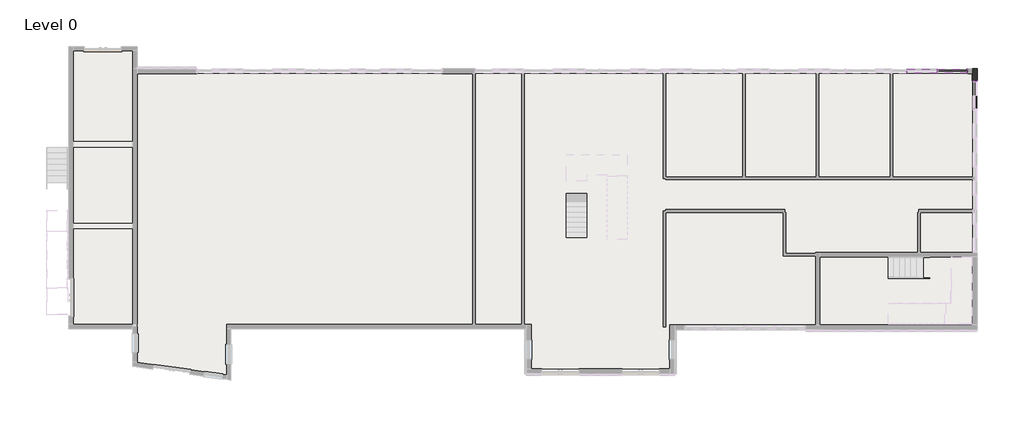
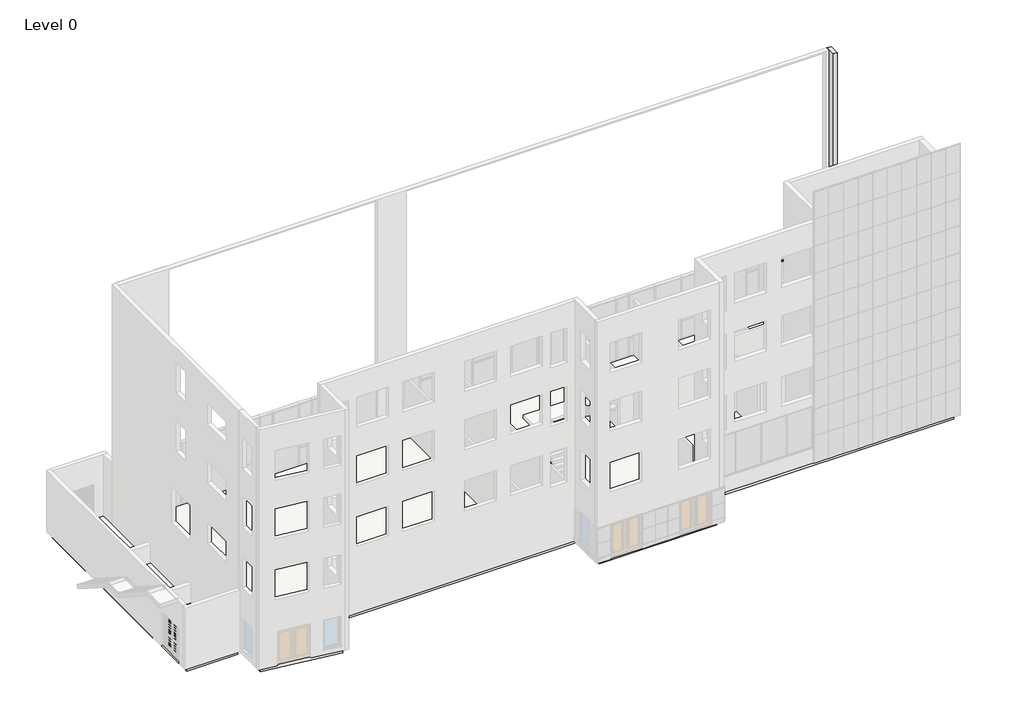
# One storey, part 8 of 10: 9 members, 2 slabs, 1 plate, 1 wall.
"""IFC4 building model written with IfcOpenShell, lengths in millimetres."""

import ifcopenshell
import ifcopenshell.guid

model = None  # the IFC model being written
_history = None  # IfcOwnerHistory: only IFC2X3 demands one
_inside = {}  # id of a spatial element -> (the spatial element, [elements in it])
_under = {}  # id of a project, library or spatial element -> (it, [spatial elements below it])
_declared = {}  # id of a project -> (the project, [libraries it declares])
_typed = {}  # id of a type object -> (the type object, [elements of that type])
_made_of = {}  # id of a material, layer set ... -> (it, [elements and type objects made of it])


def new_model(schema):
    """Start an empty IFC model of exactly this schema.

    Asked for "IFC4X3", IfcOpenShell would pick the latest addendum, in which some entities
    have other attributes; the version numbers below select the first issue.
    IFC2X3 requires an IfcOwnerHistory on every rooted entity: one is made here for all.
    """
    global model, _history
    if schema == "IFC4X3":
        model = ifcopenshell.file(schema_version=(4, 3, 0, 0))
    else:
        model = ifcopenshell.file(schema=schema)
    _inside.clear()
    _under.clear()
    _declared.clear()
    _typed.clear()
    _made_of.clear()
    _history = None
    if model.schema == "IFC2X3":
        org = make("IfcOrganization", Name="unknown")
        user = make(
            "IfcPersonAndOrganization",
            ThePerson=make("IfcPerson", FamilyName="unknown"),
            TheOrganization=org,
        )
        app = make(
            "IfcApplication",
            ApplicationDeveloper=org,
            Version="unknown",
            ApplicationFullName="unknown",
            ApplicationIdentifier="unknown",
        )
        _history = make(
            "IfcOwnerHistory",
            OwningUser=user,
            OwningApplication=app,
            ChangeAction="ADDED",
            CreationDate=0,
        )
    return model


def make(cls, **values):
    """One entity of the class cls with the attributes given. An attribute that is None is left unset."""
    return model.create_entity(
        cls, **{name: value for name, value in values.items() if value is not None}
    )


def rooted(cls, **values):
    """An entity with a GlobalId (a new one), such as an element, a storey or a relation."""
    return make(cls, GlobalId=ifcopenshell.guid.new(), OwnerHistory=_history, **values)


def si_unit(unit_type, name, prefix=None):
    """IfcSIUnit, for example si_unit("LENGTHUNIT", "METRE", prefix="MILLI")."""
    return make("IfcSIUnit", UnitType=unit_type, Prefix=prefix, Name=name)


def assignment(units):
    """IfcUnitAssignment: the units of a project."""
    return None if units is None else make("IfcUnitAssignment", Units=units)


def point(xyz):
    """IfcCartesianPoint."""
    return None if xyz is None else make("IfcCartesianPoint", Coordinates=xyz)


def direction(xyz):
    """IfcDirection."""
    return None if xyz is None else make("IfcDirection", DirectionRatios=xyz)


def frame(location, z_axis=None, x_axis=None):
    """IfcAxis2Placement3D, a coordinate frame: its origin and axes. An axis left out is left unset."""
    return make(
        "IfcAxis2Placement3D",
        Location=point(location),
        Axis=direction(z_axis),
        RefDirection=direction(x_axis),
    )


def origin():
    """The frame at (0, 0, 0) with its axes left unset."""
    return frame((0.0, 0.0, 0.0))


def place(relative_to, where):
    """IfcLocalPlacement: puts the frame where relative to a parent placement (None: the world)."""
    return make(
        "IfcLocalPlacement", PlacementRelTo=relative_to, RelativePlacement=where
    )


def context(
    kind, dimensions, precision=None, world=None, true_north=None, identifier=None
):
    """IfcGeometricRepresentationContext, for example the 3D "Model" context."""
    return make(
        "IfcGeometricRepresentationContext",
        ContextIdentifier=identifier,
        ContextType=kind,
        CoordinateSpaceDimension=dimensions,
        Precision=precision,
        WorldCoordinateSystem=world,
        TrueNorth=true_north,
    )


def project(units=None, contexts=None):
    """IfcProject with its units and contexts."""
    return rooted(
        "IfcProject",
        Name="project",
        RepresentationContexts=contexts,
        UnitsInContext=assignment(units),
    )


def spatial(cls, under=None, at=None, **own):
    """A site, building, storey or space (cls), placed at a placement, below another one or the project."""
    s = rooted(cls, ObjectPlacement=at, **own)
    if under is not None:
        _under.setdefault(under.id(), (under, []))[1].append(s)
    return s


def polyline(points):
    """IfcPolyline through the points."""
    return make("IfcPolyline", Points=[point(p) for p in points])


def outline(outer, holes=None, kind="AREA"):
    """IfcArbitraryClosedProfileDef: a profile drawn as a closed curve; with holes, ...WithVoids."""
    if holes is None:
        return make("IfcArbitraryClosedProfileDef", ProfileType=kind, OuterCurve=outer)
    return make(
        "IfcArbitraryProfileDefWithVoids",
        ProfileType=kind,
        OuterCurve=outer,
        InnerCurves=holes,
    )


def extrude(swept, where, along, depth):
    """IfcExtrudedAreaSolid: the profile swept, set in the frame where, extruded along a direction by depth."""
    return make(
        "IfcExtrudedAreaSolid",
        SweptArea=swept,
        Position=where,
        ExtrudedDirection=direction(along),
        Depth=depth,
    )


def faces_of(points, faces, orient=None, outer=None):
    """IfcFace entities. A face is a list of loops; a loop is a list of indices into points, from 0.

    orient and outer hold one flag for each loop. By default every Orientation is true, the
    first loop of a face is its IfcFaceOuterBound and the others are IfcFaceBound.
    """
    made = []
    for i, loops in enumerate(faces):
        bounds = []
        for j, loop in enumerate(loops):
            is_outer = j == 0 if outer is None else outer[i][j]
            bounds.append(
                make(
                    "IfcFaceOuterBound" if is_outer else "IfcFaceBound",
                    Bound=make("IfcPolyLoop", Polygon=[points[k] for k in loop]),
                    Orientation=True if orient is None else orient[i][j],
                )
            )
        made.append(make("IfcFace", Bounds=bounds))
    return made


def faceted_brep(points, faces, orient=None, outer=None, voids=None):
    """IfcFacetedBrep: a solid bounded by flat faces; with voids (closed shells), ...WithVoids."""
    shared = [point(p) for p in points]
    hull = make("IfcClosedShell", CfsFaces=faces_of(shared, faces, orient, outer))
    if voids is None:
        return make("IfcFacetedBrep", Outer=hull)
    return make(
        "IfcFacetedBrepWithVoids",
        Outer=hull,
        Voids=[
            make(cls, CfsFaces=faces_of(shared, fs, o, b)) for cls, fs, o, b in voids
        ],
    )


def shape(context_of_items, identifier, shape_type, items):
    """IfcShapeRepresentation: the items that make up one representation, for example the "Body"."""
    return make(
        "IfcShapeRepresentation",
        ContextOfItems=context_of_items,
        RepresentationIdentifier=identifier,
        RepresentationType=shape_type,
        Items=items,
    )


def source(mapping_origin, context_of_items, identifier, shape_type, items):
    """IfcRepresentationMap: a shape defined once, which mapped items show again and again."""
    return make(
        "IfcRepresentationMap",
        MappingOrigin=mapping_origin,
        MappedRepresentation=shape(context_of_items, identifier, shape_type, items),
    )


def transform(
    local_origin,
    x_axis=None,
    y_axis=None,
    z_axis=None,
    scale=None,
    scale2=None,
    scale3=None,
    uniform=True,
):
    """IfcCartesianTransformationOperator3D, or its non-uniform kind. x_axis, y_axis, z_axis: its Axis1, 2, 3."""
    if uniform:
        return make(
            "IfcCartesianTransformationOperator3D",
            Axis1=direction(x_axis),
            Axis2=direction(y_axis),
            LocalOrigin=point(local_origin),
            Scale=scale,
            Axis3=direction(z_axis),
        )
    return make(
        "IfcCartesianTransformationOperator3DnonUniform",
        Axis1=direction(x_axis),
        Axis2=direction(y_axis),
        LocalOrigin=point(local_origin),
        Scale=scale,
        Axis3=direction(z_axis),
        Scale2=scale2,
        Scale3=scale3,
    )


def mapped(mapping_source, mapping_target):
    """IfcMappedItem: shows the shape of a source again, moved by a transform."""
    return make(
        "IfcMappedItem", MappingSource=mapping_source, MappingTarget=mapping_target
    )


def made_of(thing, what):
    """Note that an element or type object is made of a material, layer set ...; save() writes the relation."""
    if what is not None:
        _made_of.setdefault(what.id(), (what, []))[1].append(thing)
    return thing


def element(
    cls,
    number,
    at=None,
    inside=None,
    cuts=None,
    type_object=None,
    material=None,
    context=None,
    identifier="Body",
    shape_type=None,
    held_by="IfcProductDefinitionShape",
    body=None,
    shapes=None,
    **own,
):
    """One element of the class cls, such as IfcWall. Its Tag is "e" and its number.

    at: its placement. inside: the storey or other place that contains it. cuts: it is an
    opening in that element (IfcRelVoidsElement). A single representation is given by context,
    identifier, shape_type and body (its items); several are given by shapes. held_by: the class
    of the entity that holds the representations. save() writes the other relations.
    """
    e = rooted(cls, Tag="e%d" % number, ObjectPlacement=at, **own)
    if body is not None:
        shapes = [shape(context, identifier, shape_type, body)]
    if shapes is not None:
        e.Representation = make(held_by, Representations=shapes)
    if inside is not None:
        _inside.setdefault(inside.id(), (inside, []))[1].append(e)
    if cuts is not None:
        rooted(
            "IfcRelVoidsElement", RelatingBuildingElement=cuts, RelatedOpeningElement=e
        )
    if type_object is not None:
        _typed.setdefault(type_object.id(), (type_object, []))[1].append(e)
    return made_of(e, material)


def aggregate(whole, parts):
    """IfcRelAggregates: a whole, such as a stair, and the parts it consists of."""
    return rooted("IfcRelAggregates", RelatingObject=whole, RelatedObjects=parts)


def save(model, path):
    """Write the relations noted so far, then the file.

    IfcRelAggregates (storeys below a building ...), IfcRelContainedInSpatialStructure (elements
    in a storey), IfcRelDefinesByType, IfcRelAssociatesMaterial and IfcRelDeclares: one each for
    every whole, place, type object, material and project.
    """
    for whole, parts in _under.values():
        aggregate(whole, parts)
    for where, things in _inside.values():
        rooted(
            "IfcRelContainedInSpatialStructure",
            RelatedElements=things,
            RelatingStructure=where,
        )
    for kind, things in _typed.values():
        rooted("IfcRelDefinesByType", RelatedObjects=things, RelatingType=kind)
    for what, things in _made_of.values():
        rooted("IfcRelAssociatesMaterial", RelatedObjects=things, RelatingMaterial=what)
    for by, libraries in _declared.values():
        rooted("IfcRelDeclares", RelatingContext=by, RelatedDefinitions=libraries)
    model.write(path)


def rectangular_mullion_50x180mm_fd91253e(model_context):
    return source(origin(), model_context, "Body", "SweptSolid", [
        extrude(outline(polyline([(25.0, 90.0), (25.0, -90.0), (-25.0, -90.0), (-25.0, 90.0), (25.0, 90.0)])), frame((0.0, 0.0, -1450.0), z_axis=(0.0, 0.0, 1.0), x_axis=(1.0, 0.0, 0.0)), (0.0, 0.0, 1.0), 1450.0),
    ])


def rectangular_mullion_50x180mm_c30fec06(model_context):
    return source(origin(), model_context, "Body", "SweptSolid", [
        extrude(outline(polyline([(0.0, 90.0), (0.0, -90.0), (-50.0, -90.0), (-50.0, 90.0), (0.0, 90.0)])), frame((0.0, 0.0, -1500.0), z_axis=(0.0, 0.0, 1.0), x_axis=(1.0, 0.0, 0.0)), (0.0, 0.0, 1.0), 1500.0),
    ])


def rectangular_mullion_50x180mm_95299f7d(model_context):
    return source(origin(), model_context, "Body", "SweptSolid", [
        extrude(outline(polyline([(0.0, 90.0), (0.0, -90.0), (-50.0, -90.0), (-50.0, 90.0), (0.0, 90.0)])), frame((0.0, 0.0, -1600.0), z_axis=(0.0, 0.0, 1.0), x_axis=(1.0, 0.0, 0.0)), (0.0, 0.0, 1.0), 1600.0),
    ])


def rectangular_mullion_50x180mm_7153291d(model_context):
    return source(origin(), model_context, "Body", "SweptSolid", [
        extrude(outline(polyline([(0.0, 90.0), (0.0, -90.0), (-50.0, -90.0), (-50.0, 90.0), (0.0, 90.0)])), frame((0.0, 0.0, -1100.0), z_axis=(0.0, 0.0, 1.0), x_axis=(1.0, 0.0, 0.0)), (0.0, 0.0, 1.0), 1100.0),
    ])


def rectangular_mullion_50x180mm_b6846536(model_context):
    return source(origin(), model_context, "Body", "SweptSolid", [
        extrude(outline(polyline([(0.0, 90.0), (0.0, -90.0), (-50.0, -90.0), (-50.0, 90.0), (0.0, 90.0)])), frame((0.0, 0.0, -1000.0), z_axis=(0.0, 0.0, 1.0), x_axis=(1.0, 0.0, 0.0)), (0.0, 0.0, 1.0), 1000.0),
    ])


def rectangular_mullion_50x180mm_b21090a6(model_context):
    return source(origin(), model_context, "Body", "SweptSolid", [
        extrude(outline(polyline([(0.0, 90.0), (0.0, -90.0), (-50.0, -90.0), (-50.0, 90.0), (0.0, 90.0)])), frame((0.0, 0.0, -2400.0), z_axis=(0.0, 0.0, 1.0), x_axis=(1.0, 0.0, 0.0)), (0.0, 0.0, 1.0), 2400.0),
    ])


def rectangular_mullion_50x180mm_0f748c27(model_context):
    return source(origin(), model_context, "Body", "SweptSolid", [
        extrude(outline(polyline([(0.0, 90.0), (0.0, -90.0), (-50.0, -90.0), (-50.0, 90.0), (0.0, 90.0)])), frame((0.0, 0.0, -1325.1153519), z_axis=(0.0, 0.0, 1.0), x_axis=(1.0, 0.0, 0.0)), (0.0, 0.0, 1.0), 1325.1153519),
    ])


def rectangular_mullion_50x180mm_138657df(model_context):
    return source(origin(), model_context, "Body", "SweptSolid", [
        extrude(outline(polyline([(0.0, 90.0), (0.0, -90.0), (-50.0, -90.0), (-50.0, 90.0), (0.0, 90.0)])), frame((0.0, 0.0, -900.0), z_axis=(0.0, 0.0, 1.0), x_axis=(1.0, 0.0, 0.0)), (0.0, 0.0, 1.0), 900.0),
    ])


def system_panel_dark_grey_panel_d75652f0(model_context):
    return source(origin(), model_context, "Body", "SweptSolid", [
        extrude(outline(polyline([(0.0, -712.5), (0.0, 712.5), (1100.0, 712.5), (2700.0, 712.5), (3700.0, 712.5), (3700.0, -712.5), (2700.0, -712.5), (1100.0, -712.5), (0.0, -712.5)])), frame((0.0, -10.5, 0.0), z_axis=(0.0, 1.0, 0.0), x_axis=(0.0, 0.0, 1.0)), (0.0, 0.0, 1.0), 60.0),
    ])


model = new_model("IFC4")

# Units and contexts
model_context = context("Model", 3, world=origin())
ifc_project = project(units=[si_unit("LENGTHUNIT", "METRE", prefix="MILLI")], contexts=[model_context])

# Site, building, storey
site = spatial("IfcSite", under=ifc_project)
building = spatial("IfcBuilding", under=site)
storey = spatial("IfcBuildingStorey", under=building, Name="Level 0", Elevation=0.0)

# Members
placement = place(None, origin())
rectangular_mullion_50x180mm_shape = rectangular_mullion_50x180mm_fd91253e(model_context)
element("IfcMember", 1, ObjectType="Rectangular Mullion : 50x180mm", at=placement, inside=storey, context=model_context, shape_type="MappedRepresentation", body=[
    mapped(rectangular_mullion_50x180mm_shape, transform((37668.2942367, 9132.4946591, 2700.0), x_axis=(0.0, 0.0, 1.0), y_axis=(0.0, -1.0, 0.0), z_axis=(1.0, 0.0, 0.0))),
])
rectangular_mullion_50x180mm_2_shape = rectangular_mullion_50x180mm_c30fec06(model_context)
element("IfcMember", 2, ObjectType="Rectangular Mullion : 50x180mm", at=placement, inside=storey, context=model_context, shape_type="MappedRepresentation", body=[
    mapped(rectangular_mullion_50x180mm_2_shape, transform((37693.2942367, 9132.4946591, 3750.0), x_axis=(0.0, 0.0, 1.0), y_axis=(0.0, -1.0, 0.0), z_axis=(1.0, 0.0, 0.0))),
])
element("IfcMember", 3, ObjectType="Rectangular Mullion : 50x180mm", at=placement, inside=storey, context=model_context, shape_type="MappedRepresentation", body=[
    mapped(rectangular_mullion_50x180mm_2_shape, transform((39193.2942367, 9132.4946591, 3750.0), x_axis=(0.0, 0.0, 1.0), y_axis=(0.0, -1.0, 0.0), z_axis=(1.0, 0.0, 0.0))),
])
rectangular_mullion_50x180mm_3_shape = rectangular_mullion_50x180mm_95299f7d(model_context)
element("IfcMember", 4, ObjectType="Rectangular Mullion : 50x180mm", at=placement, inside=storey, context=model_context, shape_type="MappedRepresentation", body=[
    mapped(rectangular_mullion_50x180mm_3_shape, transform((39193.2942367, 9132.4946591, 1100.0), x_axis=(1.0, 0.0, 0.0), y_axis=(0.0, -1.0, 0.0), z_axis=(0.0, 0.0, -1.0))),
])
rectangular_mullion_50x180mm_4_shape = rectangular_mullion_50x180mm_7153291d(model_context)
element("IfcMember", 5, ObjectType="Rectangular Mullion : 50x180mm", at=placement, inside=storey, context=model_context, shape_type="MappedRepresentation", body=[
    mapped(rectangular_mullion_50x180mm_4_shape, transform((39193.2942367, 9132.4946591, 0.0), x_axis=(1.0, 0.0, 0.0), y_axis=(0.0, -1.0, 0.0), z_axis=(0.0, 0.0, -1.0))),
])
rectangular_mullion_50x180mm_5_shape = rectangular_mullion_50x180mm_b6846536(model_context)
element("IfcMember", 6, ObjectType="Rectangular Mullion : 50x180mm", at=placement, inside=storey, context=model_context, shape_type="MappedRepresentation", body=[
    mapped(rectangular_mullion_50x180mm_5_shape, transform((39193.2942367, 9132.4946591, 2700.0), x_axis=(1.0, 0.0, 0.0), y_axis=(0.0, -1.0, 0.0), z_axis=(0.0, 0.0, -1.0))),
])
rectangular_mullion_50x180mm_6_shape = rectangular_mullion_50x180mm_b21090a6(model_context)
element("IfcMember", 7, ObjectType="Rectangular Mullion : 50x180mm", at=placement, inside=storey, context=model_context, shape_type="MappedRepresentation", body=[
    mapped(rectangular_mullion_50x180mm_6_shape, transform((39530.7942367, 8657.4946591, 2550.0), x_axis=(0.0, 1.0, 0.0), y_axis=(-1.0, 0.0, 0.0), z_axis=(0.0, 0.0, 1.0))),
])
rectangular_mullion_50x180mm_7_shape = rectangular_mullion_50x180mm_0f748c27(model_context)
element("IfcMember", 8, ObjectType="Rectangular Mullion : 50x180mm", at=placement, inside=storey, context=model_context, shape_type="MappedRepresentation", body=[
    mapped(rectangular_mullion_50x180mm_7_shape, transform((39530.7942367, 8607.4946591, 150.0), x_axis=(0.0, 0.0, -1.0), y_axis=(-1.0, 0.0, 0.0), z_axis=(0.0, 1.0, 0.0))),
])
rectangular_mullion_50x180mm_8_shape = rectangular_mullion_50x180mm_138657df(model_context)
element("IfcMember", 9, ObjectType="Rectangular Mullion : 50x180mm", at=placement, inside=storey, context=model_context, shape_type="MappedRepresentation", body=[
    mapped(rectangular_mullion_50x180mm_8_shape, transform((39530.7942367, 8657.4946591, 3450.0), x_axis=(0.0, 1.0, 0.0), y_axis=(-1.0, 0.0, 0.0), z_axis=(0.0, 0.0, 1.0))),
])

# Plate
system_panel_dark_grey_panel_shape = system_panel_dark_grey_panel_d75652f0(model_context)
element("IfcPlate", 10, ObjectType="System Panel : Dark Grey-Panel", at=placement, inside=storey, context=model_context, shape_type="MappedRepresentation", body=[
    mapped(system_panel_dark_grey_panel_shape, transform((38430.7942367, 9132.4946591, 0.0), x_axis=(1.0, 0.0, 0.0), y_axis=(0.0, 1.0, 0.0), z_axis=(0.0, 0.0, 1.0))),
])

# Slabs
element("IfcSlab", 11, ObjectType="Flr-Int-300mm", at=placement, inside=storey, context=model_context, shape_type="SweptSolid", body=[
    extrude(outline(polyline([(-1429.2223222, 9007.4946591), (39405.7942367, 9007.4946591), (39405.7942367, -3360.0053409), (24598.2942367, -3360.0053409), (24598.2942367, -5442.5053409), (17848.2942367, -5442.5053409), (17848.2942367, -3260.0053409), (2935.2942367, -3260.0053409), (2935.2942367, -5743.2655529), (-1429.2223222, -5129.8727526), (-1429.2223222, -3260.0053409), (-1429.2223222, 9007.4946591)])), frame((0.0, 0.0, -300.0), z_axis=(0.0, 0.0, 1.0), x_axis=(1.0, 0.0, 0.0)), (0.0, 0.0, 1.0), 300.0),
])
element("IfcSlab", 12, ObjectType="Flr-Int-300mm", at=placement, inside=storey, context=model_context, shape_type="SweptSolid", body=[
    extrude(outline(polyline([(-1644.2223222, 10124.9946591), (-1644.2223222, -3260.0053409), (-4569.2057633, -3260.0053409), (-4569.2057633, 10124.9946591), (-1644.2223222, 10124.9946591)])), frame((0.0, 0.0, -300.0), z_axis=(0.0, 0.0, 1.0), x_axis=(1.0, 0.0, 0.0)), (0.0, 0.0, 1.0), 300.0),
])

# Wall
element("IfcWall", 13, ObjectType="Wall-Ext_250-Concrete", at=placement, inside=storey, context=model_context, shape_type="Brep", body=[
    faceted_brep([(39405.7942367, 9257.4946591, 14600.0), (39405.7942367, 9257.4946591, 0.0), (39405.7942367, 9007.4946591, 0.0), (39405.7942367, 8657.4946591, 0.0), (39405.7942367, 8657.4946591, 14600.0), (39405.7942367, 9007.4946591, 14600.0), (39655.7942367, 9257.4946591, 0.0), (39655.7942367, 9257.4946591, 3450.0), (39655.7942367, 9257.4946591, 14600.0), (39655.7942367, 9007.4946591, 14600.0), (39655.7942367, 8657.4946591, 14600.0), (39655.7942367, 8657.4946591, 0.0)], [[[0, 1, 2, 3, 4, 5]], [[6, 7, 8, 9, 10, 11]], [[3, 2, 1, 6, 11]], [[4, 3, 11, 10]], [[0, 5, 4, 10, 9, 8]], [[0, 8, 7, 6, 1]]]),
])

save(model, "model.ifc")
